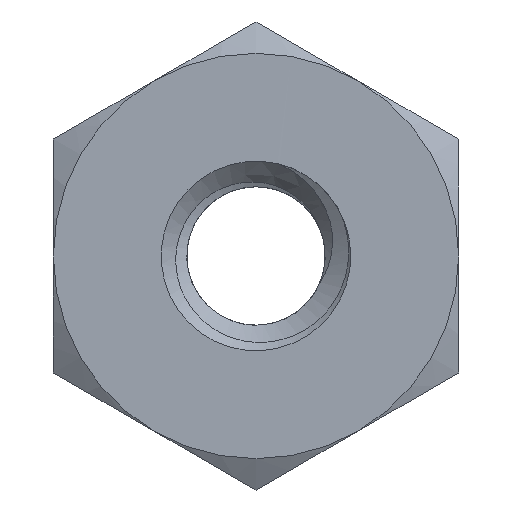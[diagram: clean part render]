
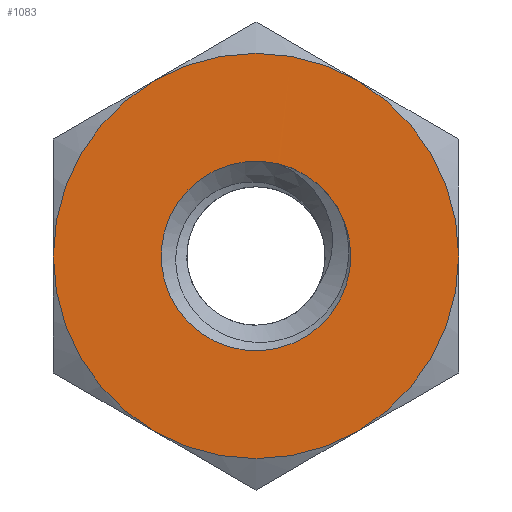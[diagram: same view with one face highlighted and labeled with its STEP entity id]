
A CAD part, front view. The second image highlights one B-rep face of the part: STEP entity #1083.
In plain terms, the highlighted planar face has unit normal (0, -1, 0).
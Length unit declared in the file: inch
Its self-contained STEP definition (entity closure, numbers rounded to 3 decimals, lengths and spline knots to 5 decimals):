
#5 = FACE_BOUND ( 'NONE', #179, .T. ) ;
#42 = CARTESIAN_POINT ( 'NONE',  ( 0.09193, -0.03091, 0. ) ) ;
#74 = VERTEX_POINT ( 'NONE', #171 ) ;
#83 = DIRECTION ( 'NONE',  ( 0., 1., 0. ) ) ;
#93 = ORIENTED_EDGE ( 'NONE', *, *, #1162, .T. ) ;
#99 = B_SPLINE_CURVE_WITH_KNOTS ( 'NONE', 3,
 ( #1113, #275, #161, #321 ),
 .UNSPECIFIED., .F., .F.,
 ( 4, 4 ),
 ( 0., 1. ),
 .UNSPECIFIED. ) ;
#117 = ORIENTED_EDGE ( 'NONE', *, *, #1052, .T. ) ;
#152 = CARTESIAN_POINT ( 'NONE',  ( -0.09193, -0.03091, 0. ) ) ;
#161 = CARTESIAN_POINT ( 'NONE',  ( 0.01038, -0.03091, 0.04172 ) ) ;
#167 = CIRCLE ( 'NONE', #860, 0.09193 ) ;
#171 = CARTESIAN_POINT ( 'NONE',  ( 0.00974, -0.03092, 0.04188 ) ) ;
#179 = EDGE_LOOP ( 'NONE', ( #424, #93, #117 ) ) ;
#186 = DIRECTION ( 'NONE',  ( 0., 1., 0. ) ) ;
#194 = ORIENTED_EDGE ( 'NONE', *, *, #249, .T. ) ;
#197 = DIRECTION ( 'NONE',  ( 0., -1., 0. ) ) ;
#238 = AXIS2_PLACEMENT_3D ( 'NONE', #820, #1134, #944 ) ;
#249 = EDGE_CURVE ( 'NONE', #736, #642, #928, .T. ) ;
#252 = DIRECTION ( 'NONE',  ( 0., 1., 0. ) ) ;
#263 = CIRCLE ( 'NONE', #1144, 0.09193 ) ;
#275 = CARTESIAN_POINT ( 'NONE',  ( 0.01006, -0.03091, 0.0418 ) ) ;
#287 = AXIS2_PLACEMENT_3D ( 'NONE', #998, #791, #799 ) ;
#321 = CARTESIAN_POINT ( 'NONE',  ( 0.01071, -0.03091, 0.04164 ) ) ;
#325 = CARTESIAN_POINT ( 'NONE',  ( 0., -0.03091, 0. ) ) ;
#386 = ORIENTED_EDGE ( 'NONE', *, *, #1223, .T. ) ;
#399 = ORIENTED_EDGE ( 'NONE', *, *, #563, .T. ) ;
#415 = CARTESIAN_POINT ( 'NONE',  ( 0., -0.03091, 0. ) ) ;
#421 = CIRCLE ( 'NONE', #287, 0.09193 ) ;
#422 = CARTESIAN_POINT ( 'NONE',  ( 0., -0.03091, 0. ) ) ;
#424 = ORIENTED_EDGE ( 'NONE', *, *, #556, .T. ) ;
#431 = ORIENTED_EDGE ( 'NONE', *, *, #762, .F. ) ;
#458 = AXIS2_PLACEMENT_3D ( 'NONE', #422, #938, #957 ) ;
#507 = CIRCLE ( 'NONE', #682, 0.09193 ) ;
#527 = DIRECTION ( 'NONE',  ( 0., 0., 1. ) ) ;
#543 = EDGE_LOOP ( 'NONE', ( #399, #386, #194, #1100, #1128, #431 ) ) ;
#556 = EDGE_CURVE ( 'NONE', #74, #1058, #99, .T. ) ;
#563 = EDGE_CURVE ( 'NONE', #1044, #855, #263, .T. ) ;
#642 = VERTEX_POINT ( 'NONE', #832 ) ;
#674 = DIRECTION ( 'NONE',  ( 0., -1., 0. ) ) ;
#681 = DIRECTION ( 'NONE',  ( 0., 0., 1. ) ) ;
#682 = AXIS2_PLACEMENT_3D ( 'NONE', #795, #252, #782 ) ;
#705 = CIRCLE ( 'NONE', #458, 0.09193 ) ;
#736 = VERTEX_POINT ( 'NONE', #152 ) ;
#737 = CARTESIAN_POINT ( 'NONE',  ( 0.04596, -0.03091, 0.07961 ) ) ;
#762 = EDGE_CURVE ( 'NONE', #1044, #923, #507, .T. ) ;
#782 = DIRECTION ( 'NONE',  ( 0., 0., 1. ) ) ;
#791 = DIRECTION ( 'NONE',  ( 0., -1., 0. ) ) ;
#795 = CARTESIAN_POINT ( 'NONE',  ( 0., -0.03091, 0. ) ) ;
#799 = DIRECTION ( 'NONE',  ( 0., 0., 1. ) ) ;
#815 = CIRCLE ( 'NONE', #878, 0.043 ) ;
#820 = CARTESIAN_POINT ( 'NONE',  ( 0., -0.03091, 0. ) ) ;
#822 = DIRECTION ( 'NONE',  ( 0., 1., 0. ) ) ;
#832 = CARTESIAN_POINT ( 'NONE',  ( -0.04596, -0.03091, -0.07961 ) ) ;
#855 = VERTEX_POINT ( 'NONE', #1344 ) ;
#860 = AXIS2_PLACEMENT_3D ( 'NONE', #1232, #674, #681 ) ;
#878 = AXIS2_PLACEMENT_3D ( 'NONE', #415, #83, #1350 ) ;
#923 = VERTEX_POINT ( 'NONE', #42 ) ;
#928 = CIRCLE ( 'NONE', #238, 0.09193 ) ;
#938 = DIRECTION ( 'NONE',  ( 0., -1., 0. ) ) ;
#944 = DIRECTION ( 'NONE',  ( 0., 0., 1. ) ) ;
#957 = DIRECTION ( 'NONE',  ( 0., 0., 1. ) ) ;
#998 = CARTESIAN_POINT ( 'NONE',  ( 0., -0.03091, 0. ) ) ;
#1038 = CARTESIAN_POINT ( 'NONE',  ( 0.01071, -0.03091, 0.04164 ) ) ;
#1044 = VERTEX_POINT ( 'NONE', #737 ) ;
#1052 = EDGE_CURVE ( 'NONE', #1270, #74, #815, .T. ) ;
#1058 = VERTEX_POINT ( 'NONE', #1038 ) ;
#1083 = ADVANCED_FACE ( 'NONE', ( #1260, #5 ), #1167, .F. ) ;
#1094 = CARTESIAN_POINT ( 'NONE',  ( 0.04596, -0.03091, -0.07961 ) ) ;
#1100 = ORIENTED_EDGE ( 'NONE', *, *, #1199, .T. ) ;
#1113 = CARTESIAN_POINT ( 'NONE',  ( 0.00974, -0.03092, 0.04188 ) ) ;
#1128 = ORIENTED_EDGE ( 'NONE', *, *, #1338, .T. ) ;
#1134 = DIRECTION ( 'NONE',  ( 0., -1., 0. ) ) ;
#1136 = CARTESIAN_POINT ( 'NONE',  ( -0.09193, -0.03091, -0.05308 ) ) ;
#1138 = DIRECTION ( 'NONE',  ( 0., 0., 1. ) ) ;
#1144 = AXIS2_PLACEMENT_3D ( 'NONE', #1214, #197, #1138 ) ;
#1146 = DIRECTION ( 'NONE',  ( 0., 0., 1. ) ) ;
#1162 = EDGE_CURVE ( 'NONE', #1058, #1270, #1231, .T. ) ;
#1167 = PLANE ( 'NONE',  #1371 ) ;
#1199 = EDGE_CURVE ( 'NONE', #642, #1224, #167, .T. ) ;
#1214 = CARTESIAN_POINT ( 'NONE',  ( 0., -0.03091, 0. ) ) ;
#1223 = EDGE_CURVE ( 'NONE', #855, #736, #421, .T. ) ;
#1224 = VERTEX_POINT ( 'NONE', #1094 ) ;
#1231 = CIRCLE ( 'NONE', #1347, 0.043 ) ;
#1232 = CARTESIAN_POINT ( 'NONE',  ( 0., -0.03091, 0. ) ) ;
#1260 = FACE_OUTER_BOUND ( 'NONE', #543, .T. ) ;
#1270 = VERTEX_POINT ( 'NONE', #1325 ) ;
#1325 = CARTESIAN_POINT ( 'NONE',  ( 0.03677, -0.03091, 0.02229 ) ) ;
#1338 = EDGE_CURVE ( 'NONE', #1224, #923, #705, .T. ) ;
#1344 = CARTESIAN_POINT ( 'NONE',  ( -0.04596, -0.03091, 0.07961 ) ) ;
#1347 = AXIS2_PLACEMENT_3D ( 'NONE', #325, #186, #1146 ) ;
#1350 = DIRECTION ( 'NONE',  ( 0., 0., 1. ) ) ;
#1371 = AXIS2_PLACEMENT_3D ( 'NONE', #1136, #822, #527 ) ;
